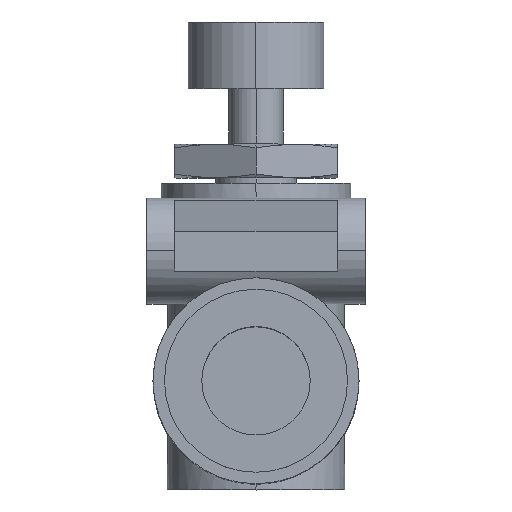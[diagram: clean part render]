
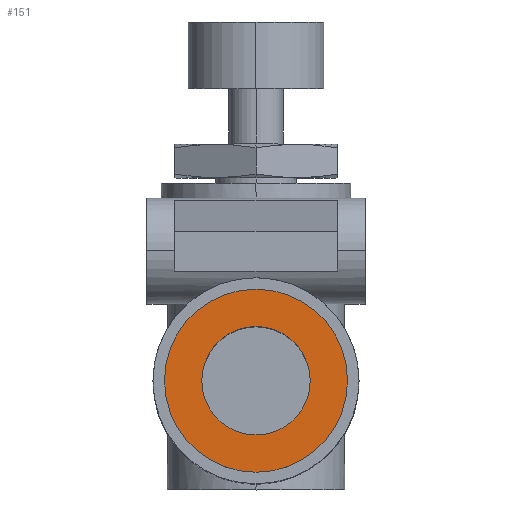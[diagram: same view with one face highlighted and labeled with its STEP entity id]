
A CAD part, top view. The second image highlights one B-rep face of the part: STEP entity #151.
In plain terms, the highlighted planar face has unit normal (0, 0, 1).
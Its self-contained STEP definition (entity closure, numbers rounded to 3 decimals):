
#151 = ADVANCED_FACE( '', ( #321, #322 ), #323, .T. );
#321 = FACE_BOUND( '', #494, .T. );
#322 = FACE_OUTER_BOUND( '', #495, .T. );
#323 = PLANE( '', #496 );
#494 = EDGE_LOOP( '', ( #1103, #1104 ) );
#495 = EDGE_LOOP( '', ( #1105, #1106 ) );
#496 = AXIS2_PLACEMENT_3D( '', #1107, #1108, #1109 );
#1103 = ORIENTED_EDGE( '', *, *, #1312, .F. );
#1104 = ORIENTED_EDGE( '', *, *, #1125, .F. );
#1105 = ORIENTED_EDGE( '', *, *, #1129, .T. );
#1106 = ORIENTED_EDGE( '', *, *, #1311, .T. );
#1107 = CARTESIAN_POINT( '', ( 0., 5.375, 28.6 ) );
#1108 = DIRECTION( '', ( 0., 0., 1. ) );
#1109 = DIRECTION( '', ( 0., 1., 0. ) );
#1125 = EDGE_CURVE( '', #1319, #1315, #1321, .T. );
#1129 = EDGE_CURVE( '', #1323, #1327, #1329, .T. );
#1311 = EDGE_CURVE( '', #1327, #1323, #1629, .T. );
#1312 = EDGE_CURVE( '', #1315, #1319, #1630, .T. );
#1315 = VERTEX_POINT( '', #1633 );
#1319 = VERTEX_POINT( '', #1638 );
#1321 = CIRCLE( '', #1641, 4. );
#1323 = VERTEX_POINT( '', #1643 );
#1327 = VERTEX_POINT( '', #1648 );
#1329 = CIRCLE( '', #1651, 6.75 );
#1629 = CIRCLE( '', #2837, 6.75 );
#1630 = CIRCLE( '', #2838, 4. );
#1633 = CARTESIAN_POINT( '', ( 0., 4., 28.6 ) );
#1638 = CARTESIAN_POINT( '', ( 0., -4., 28.6 ) );
#1641 = AXIS2_PLACEMENT_3D( '', #2845, #2846, #2847 );
#1643 = CARTESIAN_POINT( '', ( 0., 6.75, 28.6 ) );
#1648 = CARTESIAN_POINT( '', ( 0., -6.75, 28.6 ) );
#1651 = AXIS2_PLACEMENT_3D( '', #2853, #2854, #2855 );
#2837 = AXIS2_PLACEMENT_3D( '', #3135, #3136, #3137 );
#2838 = AXIS2_PLACEMENT_3D( '', #3138, #3139, #3140 );
#2845 = CARTESIAN_POINT( '', ( 0., 0., 28.6 ) );
#2846 = DIRECTION( '', ( 0., 0., 1. ) );
#2847 = DIRECTION( '', ( 0., 1., 0. ) );
#2853 = CARTESIAN_POINT( '', ( 0., 0., 28.6 ) );
#2854 = DIRECTION( '', ( 0., 0., 1. ) );
#2855 = DIRECTION( '', ( 0., 1., 0. ) );
#3135 = CARTESIAN_POINT( '', ( 0., 0., 28.6 ) );
#3136 = DIRECTION( '', ( 0., 0., 1. ) );
#3137 = DIRECTION( '', ( 0., 1., 0. ) );
#3138 = CARTESIAN_POINT( '', ( 0., 0., 28.6 ) );
#3139 = DIRECTION( '', ( 0., 0., 1. ) );
#3140 = DIRECTION( '', ( 0., 1., 0. ) );
